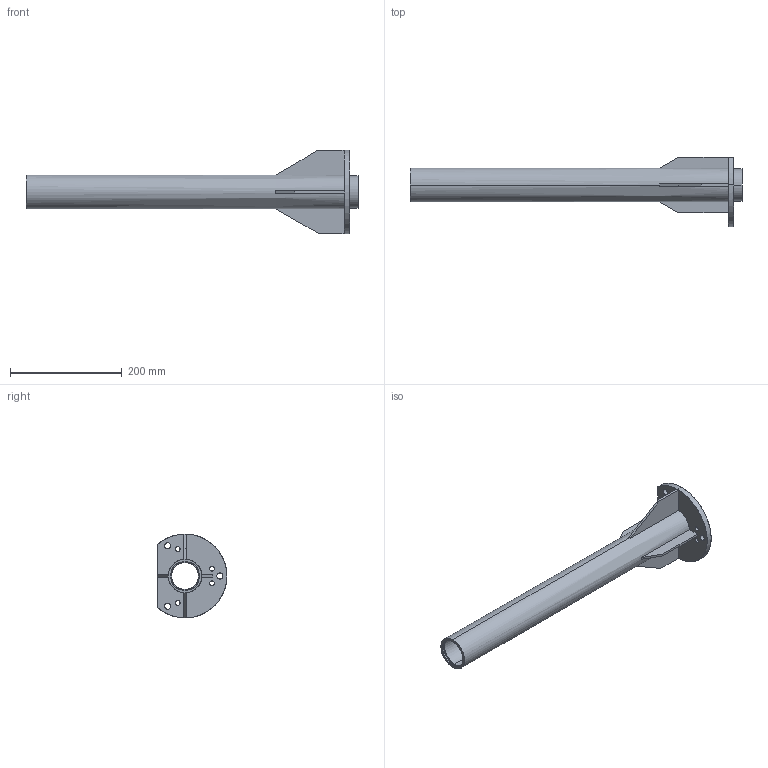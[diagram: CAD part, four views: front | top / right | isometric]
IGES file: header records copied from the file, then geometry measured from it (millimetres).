
Start section: SolidWorks IGES FILE using analytic representation for surfaces
Global section: file name: 57.IGS; native system: SolidWorks 2003 by SolidWorks Corporation; preprocessor: Version 5.3; author: sujet; date: 040213.102543; units: millimetre
Bounding box: 595 x 125 x 150 mm (x, y, z)
Surface area: 260329.5 mm2 (no closed solid volume)
Topology: 0 solids, 0 shells, 84 faces, 2056 edges, 2056 vertices
Faces by surface type: bspline 49, revolution 35
